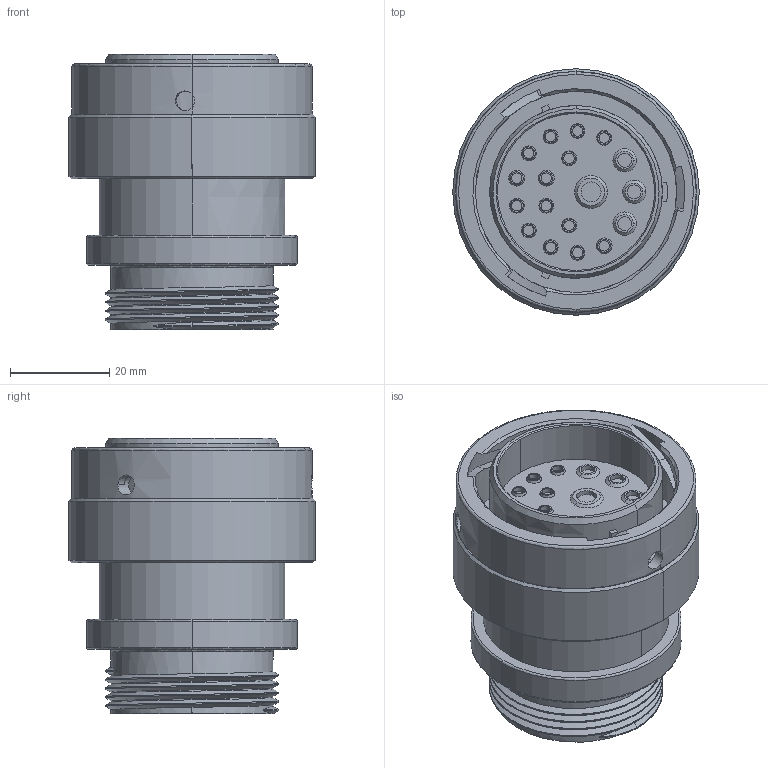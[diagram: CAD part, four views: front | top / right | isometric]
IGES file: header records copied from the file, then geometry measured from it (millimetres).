
Start section:  PTC IGES file: c-hdp26-24-18pe-l015-99-3d.igs
Global section: file name: c-hdp26-24-18pe-l015-99-3d.igs; native system: Pro/ENGINEER by Parametric Technology Corporation; preprocessor: 2011490; author: workeradm; organization: Unknown; units: millimetre
Bounding box: 49.53 x 49.53 x 55.45 mm (x, y, z)
Surface area: 20497.6 mm2 (no closed solid volume)
Topology: 0 solids, 0 shells, 597 faces, 2944 edges, 2944 vertices
Faces by surface type: bspline 369, revolution 228
